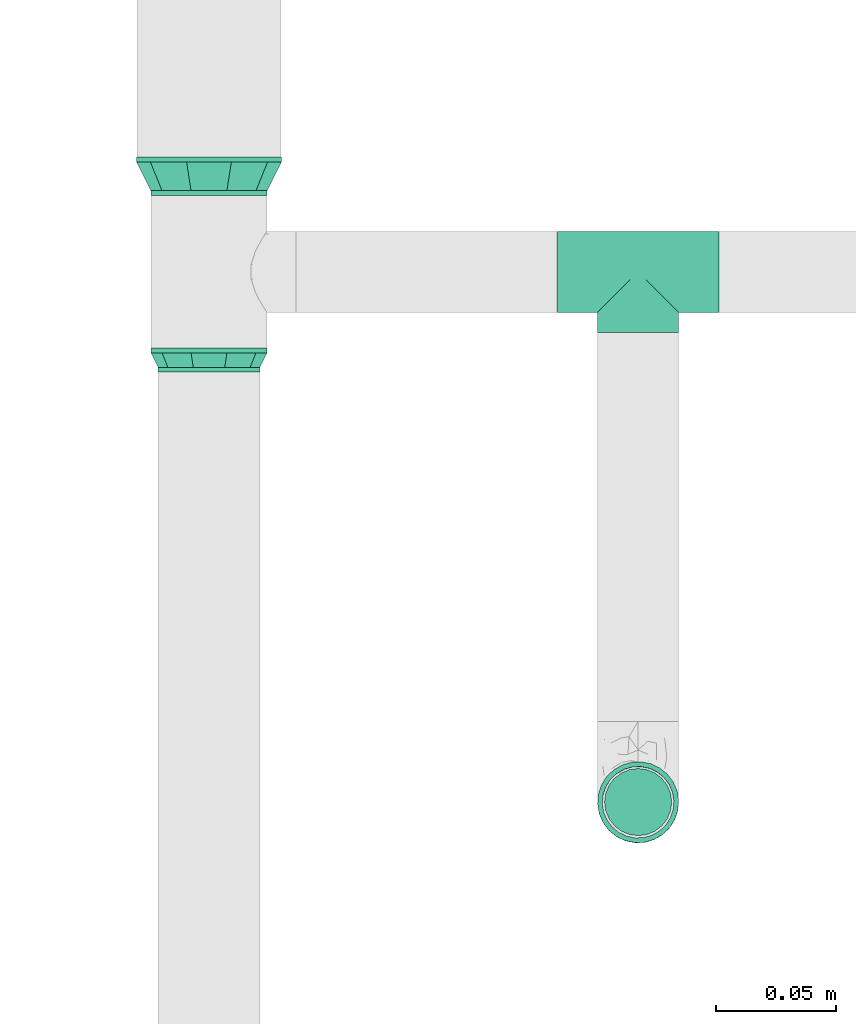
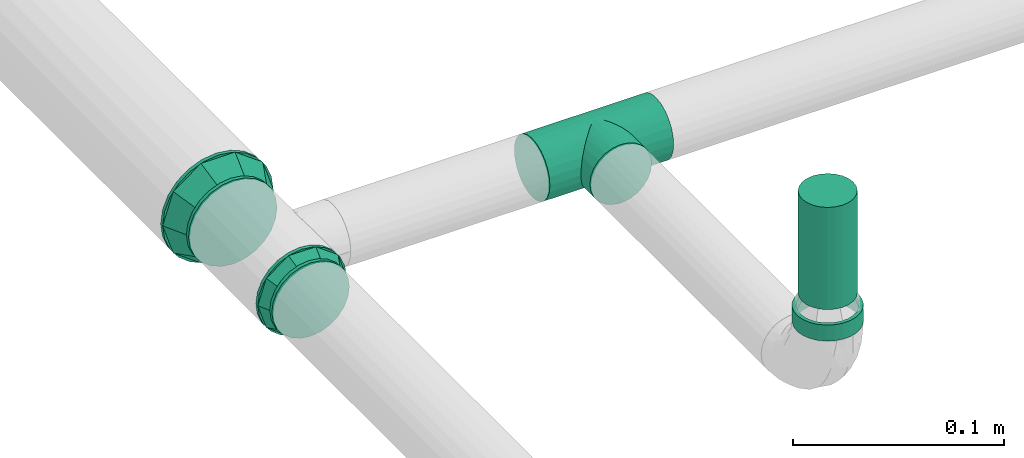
# One storey, part 20 of 43: 3 flow fittings, 1 flow segment, 1 flow terminal.
"""IFC2X3 building model written with IfcOpenShell, lengths in millimetres."""

from ifc_helpers import new_model, entity, si_unit, converted_unit, derived_unit, direction, frame, origin_with_axes, origin_2d_with_axis, place, context, subcontext, project, spatial, hollow_circle, extrude, open_shell, surface_model, source, transform, mapped, type_object, element, save


model = new_model("IFC2X3")

# Units and contexts
model_context = context("Model", 3, precision=0.01, world=frame((0.0, 4.29681676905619e-09, 0.0)), true_north=direction((4.01073788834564e-13, 1.0)))
plan_context = context("Plan", 3, precision=0.01, world=frame((0.0, 4.29681676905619e-09, 0.0)), true_north=direction((4.01073788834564e-13, 1.0)))
body_context = subcontext(model_context, "Body", "Model", "MODEL_VIEW")
ifc_project = project(units=[converted_unit("PLANEANGLEUNIT", "DEGREE", entity("IfcPositiveLengthMeasure", 0.0174532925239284), si_unit("PLANEANGLEUNIT", "RADIAN"), dimensions=[0, 0, 0, 0, 0, 0, 0]), si_unit("AREAUNIT", "SQUARE_METRE"), si_unit("LENGTHUNIT", "METRE", prefix="MILLI"), si_unit("MASSUNIT", "GRAM", prefix="KILO"), si_unit("POWERUNIT", "WATT"), si_unit("PRESSUREUNIT", "PASCAL"), si_unit("FORCEUNIT", "NEWTON", prefix="KILO"), si_unit("ELECTRICVOLTAGEUNIT", "VOLT"), si_unit("ELECTRICCURRENTUNIT", "AMPERE"), si_unit("THERMODYNAMICTEMPERATUREUNIT", "DEGREE_CELSIUS"), si_unit("TIMEUNIT", "SECOND"), si_unit("VOLUMEUNIT", "CUBIC_METRE"), derived_unit("LINEARVELOCITYUNIT", [(si_unit("LENGTHUNIT", "METRE"), 1), (si_unit("TIMEUNIT", "SECOND"), -1)]), derived_unit("VOLUMETRICFLOWRATEUNIT", [(si_unit("VOLUMEUNIT", "CUBIC_METRE"), 1), (si_unit("TIMEUNIT", "SECOND"), -1)]), derived_unit("THERMALTRANSMITTANCEUNIT", [(si_unit("POWERUNIT", "WATT"), 1), (si_unit("THERMODYNAMICTEMPERATUREUNIT", "KELVIN"), -1), (si_unit("AREAUNIT", "SQUARE_METRE"), -1)]), derived_unit("SOUNDPRESSUREUNIT", [(si_unit("PRESSUREUNIT", "PASCAL"), 1)])], contexts=[model_context, plan_context])

# Site, building, storey
site_placement = place(None, frame((0.0, -4.29681676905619e-09, 0.0), z_axis=(0.0, 0.0, 1.0), x_axis=(1.0, 0.0, 0.0)))
site = spatial("IfcSite", under=ifc_project, at=site_placement, CompositionType="ELEMENT")
building_placement = place(site_placement, frame((0.0, 4.29681676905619e-09, 0.0), z_axis=(0.0, 0.0, 1.0), x_axis=(1.0, 0.0, 0.0)))
building = spatial("IfcBuilding", under=site, at=building_placement, Name="mc-building", CompositionType="ELEMENT")
storey_placement = place(building_placement, frame((0.0, 0.0, 210900.0), z_axis=(0.0, 0.0, 1.0), x_axis=(1.0, 0.0, 0.0)))
storey = spatial("IfcBuildingStorey", under=building, at=storey_placement, Name="Nivå F", CompositionType="ELEMENT", Elevation=210900.0)

# Flow fittings
pipe_fitting_type_1 = type_object("IfcPipeFittingType", Name="magi_pipe_fe_tee_centric_90_NOR", PredefinedType="JUNCTION")
shared_shape_1 = source(origin_with_axes(), body_context, "Body", "SurfaceModel", [
    surface_model("IfcShellBasedSurfaceModel", [(-33.8, 8.45, -14.63583), (-33.8, 4.37404, -16.32415), (-33.8, 11.9501, -11.9501), (-33.8, -11.9501, -11.9501), (-33.8, -14.63583, -8.45), (-33.8, -8.45, -14.63583), (-33.8, 0.0, -16.9), (-33.8, -4.37404, -16.32415), (-33.8, -4.37404, 16.32415), (-33.8, 0.0, 16.9), (-33.8, -8.45, 14.63583), (-33.8, 16.32415, -4.37404), (-33.8, 14.63583, -8.45), (-33.8, -16.9, 0.0), (-33.8, -16.32415, -4.37404), (-33.8, 14.63583, 8.45), (-33.8, 16.32415, 4.37404), (-33.8, 8.45, 14.63583), (-33.8, 11.9501, 11.9501), (-33.8, 4.37404, 16.32415), (-33.8, -11.9501, 11.9501), (-33.8, -14.63583, 8.45), (-33.8, -16.32415, 4.37404), (-33.8, 16.9, 0.0), (33.8, 4.37404, -16.32415), (33.8, -16.9, 0.0), (33.8, 0.0, -16.9), (33.8, 14.63583, -8.45), (33.8, 8.45, -14.63583), (33.8, 16.32415, -4.37404), (33.8, 11.9501, -11.9501), (33.8, -16.32415, 4.37404), (33.8, -8.45, -14.63583), (33.8, -4.37404, -16.32415), (33.8, -11.9501, -11.9501), (33.8, -14.63583, -8.45), (33.8, -16.32415, -4.37404), (33.8, 16.32415, 4.37404), (33.8, 8.45, 14.63583), (33.8, 14.63583, 8.45), (33.8, 11.9501, 11.9501), (33.8, -8.45, 14.63583), (33.8, 4.37404, 16.32415), (33.8, -14.63583, 8.45), (33.8, -11.9501, 11.9501), (33.8, 0.0, 16.9), (33.8, -4.37404, 16.32415), (33.8, 16.9, 0.0), (16.28698, -16.28698, 4.51047), (16.9, -16.9, 0.0), (14.62704, -14.62704, 8.4652), (9.47213, -9.47213, 13.99602), (12.26343, -12.26343, 11.62834), (-16.9, -16.9, 0.0), (-16.28698, -16.28698, 4.51047), (-14.62704, -14.62704, 8.4652), (-12.26343, -12.26343, 11.62834), (-9.47213, -9.47213, 13.99602), (-6.42894, -6.42894, 15.62942), (6.42894, -6.42894, 15.62942), (3.24522, -3.24522, 16.58549), (0.0, 0.0, 16.9), (-3.24522, -3.24522, 16.58549), (3.24522, -3.24522, -16.58549), (0.0, 0.0, -16.9), (-3.24522, -3.24522, -16.58549), (-6.42894, -6.42894, -15.62942), (6.42894, -6.42894, -15.62942), (9.47213, -9.47213, -13.99602), (12.26343, -12.26343, -11.62834), (14.62704, -14.62704, -8.4652), (16.28698, -16.28698, -4.51047), (-9.47213, -9.47213, -13.99602), (-12.26343, -12.26343, -11.62834), (-16.28698, -16.28698, -4.51047), (-14.62704, -14.62704, -8.4652), (4.37404, -25.35, -16.32415), (-16.9, -25.35, 0.0), (0.0, -25.35, -16.9), (14.63583, -25.35, -8.45), (8.45, -25.35, -14.63583), (16.32415, -25.35, -4.37404), (11.9501, -25.35, -11.9501), (-11.9501, -25.35, -11.9501), (-8.45, -25.35, -14.63583), (-4.37404, -25.35, -16.32415), (-14.63583, -25.35, -8.45), (-16.32415, -25.35, -4.37404), (16.9, -25.35, 0.0), (8.45, -25.35, 14.63583), (16.32415, -25.35, 4.37404), (14.63583, -25.35, 8.45), (-8.45, -25.35, 14.63583), (11.9501, -25.35, 11.9501), (4.37404, -25.35, 16.32415), (-16.32415, -25.35, 4.37404), (-11.9501, -25.35, 11.9501), (-14.63583, -25.35, 8.45), (0.0, -25.35, 16.9), (-4.37404, -25.35, 16.32415)], [open_shell([[[0, 1, 2]], [[3, 4, 5]], [[6, 7, 5]], [[8, 9, 10]], [[1, 6, 11]], [[1, 11, 12]], [[2, 1, 12]], [[13, 11, 6]], [[14, 13, 4]], [[6, 5, 4]], [[6, 4, 13]], [[13, 15, 11]], [[15, 16, 11]], [[10, 15, 13]], [[15, 10, 17]], [[18, 15, 17]], [[19, 17, 9]], [[20, 10, 21]], [[22, 21, 10]], [[10, 13, 22]], [[10, 9, 17]], [[23, 11, 16]], [[24, 25, 26]], [[27, 24, 28]], [[27, 29, 24]], [[27, 28, 30]], [[31, 25, 24]], [[26, 32, 33]], [[26, 34, 32]], [[35, 25, 36]], [[35, 34, 26]], [[25, 35, 26]], [[24, 29, 31]], [[29, 37, 38]], [[38, 37, 39]], [[38, 31, 29]], [[38, 39, 40]], [[41, 38, 42]], [[43, 41, 44]], [[41, 43, 31]], [[41, 45, 46]], [[41, 31, 38]], [[42, 45, 41]], [[29, 47, 37]], [[31, 43, 48]], [[25, 31, 49]], [[49, 31, 48]], [[43, 50, 48]], [[44, 41, 51]], [[50, 43, 52]], [[51, 52, 44]], [[52, 43, 44]], [[53, 54, 22]], [[53, 22, 13]], [[22, 54, 21]], [[54, 55, 21]], [[56, 57, 20]], [[20, 21, 56]], [[20, 57, 10]], [[56, 21, 55]], [[10, 57, 58]], [[51, 41, 59]], [[60, 45, 61]], [[59, 46, 60]], [[46, 59, 41]], [[60, 46, 45]], [[61, 45, 42]], [[39, 37, 16]], [[18, 38, 40]], [[15, 40, 39]], [[42, 38, 17]], [[23, 37, 47]], [[62, 61, 9]], [[62, 8, 58]], [[8, 62, 9]], [[58, 8, 10]], [[61, 19, 9]], [[42, 19, 61]], [[17, 19, 42]], [[17, 38, 18]], [[15, 18, 40]], [[16, 15, 39]], [[37, 23, 16]], [[12, 27, 30]], [[23, 47, 29]], [[30, 28, 0]], [[27, 11, 29]], [[26, 33, 63]], [[26, 64, 24]], [[64, 26, 63]], [[28, 24, 1]], [[64, 1, 24]], [[2, 30, 0]], [[11, 27, 12]], [[12, 30, 2]], [[11, 23, 29]], [[65, 66, 7]], [[6, 1, 64]], [[6, 65, 7]], [[66, 5, 7]], [[1, 0, 28]], [[6, 64, 65]], [[63, 33, 67]], [[32, 34, 68]], [[69, 68, 34]], [[35, 70, 69]], [[69, 34, 35]], [[32, 68, 67]], [[36, 25, 49]], [[36, 71, 35]], [[71, 36, 49]], [[35, 71, 70]], [[72, 5, 66]], [[72, 3, 5]], [[3, 72, 73]], [[3, 73, 4]], [[74, 53, 14]], [[75, 74, 4]], [[74, 14, 4]], [[14, 53, 13]], [[75, 4, 73]], [[32, 67, 33]], [[76, 77, 78]], [[79, 76, 80]], [[79, 81, 76]], [[79, 80, 82]], [[77, 76, 81]], [[78, 83, 84]], [[84, 85, 78]], [[86, 77, 87]], [[83, 78, 86]], [[77, 86, 78]], [[81, 88, 77]], [[89, 88, 90]], [[89, 90, 91]], [[92, 77, 89]], [[89, 91, 93]], [[92, 89, 94]], [[95, 96, 97]], [[96, 95, 92]], [[92, 98, 99]], [[95, 77, 92]], [[94, 98, 92]], [[89, 77, 88]], [[77, 95, 53]], [[54, 53, 95]], [[97, 96, 56]], [[96, 92, 57]], [[95, 97, 54]], [[58, 92, 99]], [[55, 54, 97]], [[56, 55, 97]], [[58, 57, 92]], [[98, 61, 62]], [[58, 99, 62]], [[56, 96, 57]], [[62, 99, 98]], [[94, 60, 98]], [[89, 59, 94]], [[91, 90, 48]], [[52, 93, 91]], [[93, 51, 89]], [[49, 90, 88]], [[59, 60, 94]], [[51, 59, 89]], [[49, 48, 90]], [[50, 52, 91]], [[48, 50, 91]], [[51, 93, 52]], [[98, 60, 61]], [[88, 81, 49]], [[71, 49, 81]], [[79, 82, 69]], [[82, 80, 68]], [[81, 79, 71]], [[67, 80, 76]], [[70, 71, 79]], [[69, 70, 79]], [[67, 68, 80]], [[78, 64, 63]], [[67, 76, 63]], [[69, 82, 68]], [[63, 76, 78]], [[85, 65, 78]], [[84, 66, 85]], [[86, 87, 74]], [[86, 73, 83]], [[72, 84, 83]], [[53, 87, 77]], [[66, 65, 85]], [[72, 66, 84]], [[53, 74, 87]], [[75, 73, 86]], [[74, 75, 86]], [[72, 83, 73]], [[78, 65, 64]]])]),
])
flow_fitting_1_placement = place(storey_placement, frame((608058.43429, 692259.33183, 2660.0), z_axis=(0.0, 0.0, 1.0), x_axis=(1.0, 0.0, 0.0)))
element("IfcFlowFitting", 1, at=flow_fitting_1_placement, inside=storey, type_object=pipe_fitting_type_1, Name="magi_pipe_fe_tee_centric_90_NOR", context=body_context, shape_type="MappedRepresentation", body=[
    mapped(shared_shape_1, transform((0.0, 0.0, 0.0), scale=1.0)),
])
pipe_fitting_type_2 = type_object("IfcPipeFittingType", Name="magi_pipe_fe_reducer_centric_short_NOR", PredefinedType="TRANSITION")
shared_shape_2 = source(origin_with_axes(), body_context, "Body", "SurfaceModel", [
    surface_model("IfcShellBasedSurfaceModel", [(-2.0, 0.0, 21.2), (-2.0, 5.48696, 20.47763), (-2.0, 10.6, 18.35974), (-2.0, 14.99066, 14.99066), (-2.0, 18.35974, 10.6), (-2.0, 20.47763, 5.48696), (-2.0, -21.2, 0.0), (-2.0, -14.99066, -14.99066), (-2.0, -5.48696, 20.47763), (-2.0, -14.99066, 14.99066), (-2.0, -10.6, 18.35974), (-2.0, -18.35974, 10.6), (-2.0, -20.47763, 5.48696), (-2.0, 20.47763, -5.48696), (-2.0, 10.6, -18.35974), (-2.0, 14.99066, -14.99066), (-2.0, 18.35974, -10.6), (-2.0, 5.48696, -20.47763), (-2.0, 0.0, -21.2), (-2.0, -18.35974, -10.6), (-2.0, -20.47763, -5.48696), (-2.0, -10.6, -18.35974), (-2.0, -5.48696, -20.47763), (-2.0, 21.2, 0.0), (0.0, 10.6, -18.35974), (0.0, 0.0, -21.2), (0.0, 5.48696, -20.47763), (0.0, 20.47763, -5.48696), (0.0, 14.99066, -14.99066), (0.0, -21.2, 0.0), (0.0, -14.99066, -14.99066), (0.0, 18.35974, -10.6), (0.0, -10.6, -18.35974), (0.0, -5.48696, -20.47763), (0.0, -18.35974, -10.6), (0.0, -20.47763, -5.48696), (0.0, -18.35974, 10.6), (0.0, 21.2, 0.0), (0.0, 20.47763, 5.48696), (0.0, 18.35974, 10.6), (0.0, 14.99066, 14.99066), (0.0, 0.0, 21.2), (0.0, 10.6, 18.35974), (0.0, 5.48696, 20.47763), (0.0, -14.99066, 14.99066), (0.0, -20.47763, 5.48696), (0.0, -5.48696, 20.47763), (0.0, -10.6, 18.35974), (8.0, 24.2, 0.0), (8.0, 6.26342, -23.37541), (8.0, 12.1, -20.95781), (8.0, 23.37541, -6.26342), (8.0, 17.11198, -17.11198), (8.0, 20.95781, -12.1), (8.0, -24.2, 0.0), (8.0, -12.1, -20.95781), (8.0, -6.26342, -23.37541), (8.0, 0.0, -24.2), (8.0, -17.11198, -17.11198), (8.0, -23.37541, -6.26342), (8.0, -20.95781, -12.1), (8.0, 20.95781, 12.1), (8.0, 17.11198, 17.11198), (8.0, 12.1, 20.95781), (8.0, 6.26342, 23.37541), (8.0, 0.0, 24.2), (8.0, -23.37541, 6.26342), (8.0, -17.11198, 17.11198), (8.0, -20.95781, 12.1), (8.0, -6.26342, 23.37541), (8.0, -12.1, 20.95781), (8.0, 23.37541, 6.26342), (6.0, 0.0, 24.2), (6.0, 6.26342, 23.37541), (6.0, 12.1, 20.95781), (6.0, 17.11198, 17.11198), (6.0, 6.26342, -23.37541), (6.0, 20.95781, 12.1), (6.0, -23.37541, 6.26342), (6.0, -17.11198, -17.11198), (6.0, -6.26342, 23.37541), (6.0, -17.11198, 17.11198), (6.0, -12.1, 20.95781), (6.0, -20.95781, 12.1), (6.0, -24.2, 0.0), (6.0, 23.37541, 6.26342), (6.0, 24.2, 0.0), (6.0, 23.37541, -6.26342), (6.0, 17.11198, -17.11198), (6.0, 20.95781, -12.1), (6.0, 12.1, -20.95781), (6.0, -23.37541, -6.26342), (6.0, -20.95781, -12.1), (6.0, -6.26342, -23.37541), (6.0, -12.1, -20.95781), (6.0, 0.0, -24.2), (6.0, 7.47821, 23.01557), (6.0, -7.47821, 23.01557), (6.0, 19.57821, 14.2244), (6.0, 19.57821, -14.2244), (6.0, -19.57821, 14.2244), (6.0, -19.57821, -14.2244), (6.0, 7.47821, -23.01557), (6.0, -7.47821, -23.01557), (0.0, -6.55116, 20.1624), (0.0, 6.55116, 20.1624), (0.0, -17.15116, 12.46105), (0.0, -17.15116, -12.46105), (0.0, 17.15116, 12.46105), (0.0, 17.15116, -12.46105), (0.0, -6.55116, -20.1624), (0.0, 6.55116, -20.1624), (6.0, -21.8891, -7.1122), (0.0, -19.17558, -6.23052), (0.0, -11.85116, -16.31172), (6.0, -13.52821, -18.61999), (6.0, 0.0, -23.01557), (0.0, 0.0, -20.1624), (0.0, 18.43768, -8.50153), (0.0, 19.72421, -4.54202), (6.0, 21.8891, -7.1122), (6.0, 13.52821, -18.61999), (0.0, 11.85116, -16.31172), (6.0, 21.8891, 7.1122), (0.0, 19.17558, 6.23052), (0.0, 11.85116, 16.31172), (6.0, 13.52821, 18.61999), (6.0, 0.0, 23.01557), (0.0, 0.0, 20.1624), (0.0, -18.43768, 8.50153), (0.0, -19.72421, 4.54202), (6.0, -21.8891, 7.1122), (6.0, -13.52821, 18.61999), (0.0, -11.85116, 16.31172)], [open_shell([[[0, 1, 2]], [[0, 2, 3]], [[3, 4, 5]], [[3, 5, 0]], [[6, 0, 7]], [[8, 9, 10]], [[8, 0, 9]], [[11, 6, 12]], [[9, 0, 11]], [[0, 6, 11]], [[0, 5, 7]], [[5, 13, 14]], [[15, 13, 16]], [[7, 5, 14]], [[14, 13, 15]], [[17, 18, 14]], [[6, 19, 20]], [[7, 19, 6]], [[21, 18, 22]], [[21, 7, 14]], [[18, 21, 14]], [[13, 5, 23]], [[24, 25, 26]], [[27, 24, 28]], [[29, 30, 24]], [[27, 28, 31]], [[27, 29, 24]], [[25, 32, 33]], [[25, 24, 32]], [[34, 29, 35]], [[32, 24, 30]], [[34, 30, 29]], [[36, 27, 37]], [[38, 39, 40]], [[38, 40, 41]], [[42, 43, 41]], [[42, 41, 40]], [[38, 41, 44]], [[29, 36, 45]], [[27, 36, 29]], [[44, 46, 47]], [[36, 38, 44]], [[41, 46, 44]], [[36, 37, 38]], [[20, 35, 6]], [[19, 34, 20]], [[32, 7, 21]], [[19, 7, 30]], [[33, 21, 22]], [[20, 34, 35]], [[35, 29, 6]], [[33, 32, 21]], [[30, 7, 32]], [[30, 34, 19]], [[25, 33, 22]], [[22, 18, 25]], [[17, 26, 18]], [[14, 24, 17]], [[31, 15, 16]], [[14, 15, 28]], [[27, 16, 13]], [[14, 28, 24]], [[24, 26, 17]], [[37, 27, 13]], [[31, 16, 27]], [[31, 28, 15]], [[23, 37, 13]], [[18, 26, 25]], [[5, 38, 23]], [[4, 39, 5]], [[42, 3, 2]], [[4, 3, 40]], [[43, 2, 1]], [[5, 39, 38]], [[38, 37, 23]], [[43, 42, 2]], [[40, 3, 42]], [[40, 39, 4]], [[41, 43, 1]], [[1, 0, 41]], [[8, 46, 0]], [[10, 47, 8]], [[36, 9, 11]], [[10, 9, 44]], [[45, 11, 12]], [[10, 44, 47]], [[47, 46, 8]], [[29, 45, 12]], [[36, 11, 45]], [[36, 44, 9]], [[6, 29, 12]], [[0, 46, 41]], [[48, 49, 50]], [[51, 50, 52]], [[51, 48, 50]], [[51, 52, 53]], [[49, 54, 55]], [[49, 56, 57]], [[49, 55, 56]], [[58, 59, 60]], [[58, 55, 54]], [[58, 54, 59]], [[49, 48, 61]], [[61, 62, 49]], [[49, 62, 54]], [[63, 64, 65]], [[63, 65, 62]], [[54, 62, 65]], [[66, 67, 68]], [[69, 66, 54]], [[67, 69, 70]], [[69, 67, 66]], [[54, 65, 69]], [[48, 71, 61]], [[72, 73, 74]], [[72, 74, 75]], [[76, 75, 77]], [[78, 72, 79]], [[72, 75, 79]], [[80, 81, 82]], [[80, 72, 81]], [[81, 78, 83]], [[72, 78, 81]], [[78, 79, 84]], [[76, 77, 85]], [[76, 86, 87]], [[88, 87, 89]], [[90, 76, 87]], [[90, 87, 88]], [[76, 79, 75]], [[91, 79, 92]], [[84, 79, 91]], [[76, 93, 94]], [[94, 79, 76]], [[93, 76, 95]], [[85, 86, 76]], [[91, 59, 84]], [[92, 60, 91]], [[55, 79, 94]], [[92, 79, 58]], [[56, 94, 93]], [[91, 60, 59]], [[59, 54, 84]], [[56, 55, 94]], [[58, 79, 55]], [[58, 60, 92]], [[57, 56, 93]], [[93, 95, 57]], [[76, 49, 95]], [[90, 50, 76]], [[53, 88, 89]], [[90, 88, 52]], [[51, 89, 87]], [[90, 52, 50]], [[50, 49, 76]], [[48, 51, 87]], [[53, 89, 51]], [[53, 52, 88]], [[86, 48, 87]], [[95, 49, 57]], [[85, 71, 86]], [[77, 61, 85]], [[63, 75, 74]], [[77, 75, 62]], [[64, 74, 73]], [[85, 61, 71]], [[71, 48, 86]], [[64, 63, 74]], [[62, 75, 63]], [[62, 61, 77]], [[65, 64, 73]], [[73, 72, 65]], [[80, 69, 72]], [[82, 70, 80]], [[68, 81, 83]], [[82, 81, 67]], [[66, 83, 78]], [[82, 67, 70]], [[70, 69, 80]], [[54, 66, 78]], [[68, 83, 66]], [[68, 67, 81]], [[84, 54, 78]], [[72, 69, 65]], [[96, 97, 84]], [[98, 99, 86]], [[96, 99, 98]], [[84, 97, 100]], [[84, 101, 99]], [[101, 102, 99]], [[102, 101, 103]], [[84, 99, 96]], [[104, 105, 37]], [[106, 107, 29]], [[104, 107, 106]], [[37, 105, 108]], [[37, 109, 107]], [[109, 110, 107]], [[110, 109, 111]], [[37, 107, 104]], [[112, 29, 113]], [[113, 107, 101]], [[103, 114, 110]], [[29, 112, 84]], [[113, 101, 112]], [[115, 107, 114]], [[116, 103, 110]], [[117, 102, 116]], [[102, 117, 111]], [[118, 119, 120]], [[107, 115, 101]], [[103, 115, 114]], [[111, 121, 102]], [[122, 99, 121]], [[119, 86, 120]], [[121, 111, 122]], [[119, 37, 86]], [[122, 109, 99]], [[116, 110, 117]], [[118, 99, 109]], [[99, 118, 120]], [[123, 37, 124]], [[124, 108, 98]], [[96, 125, 105]], [[37, 123, 86]], [[124, 98, 123]], [[126, 108, 125]], [[127, 96, 105]], [[128, 97, 127]], [[97, 128, 104]], [[129, 130, 131]], [[108, 126, 98]], [[96, 126, 125]], [[104, 132, 97]], [[133, 100, 132]], [[130, 84, 131]], [[132, 104, 133]], [[130, 29, 84]], [[133, 106, 100]], [[127, 105, 128]], [[129, 100, 106]], [[100, 129, 131]]])]),
])
flow_fitting_2_placement = place(storey_placement, frame((607879.57252, 692219.53183, 2660.0), z_axis=(0.0, 0.0, 1.0), x_axis=(0.0, 1.0, 0.0)))
element("IfcFlowFitting", 2, at=flow_fitting_2_placement, inside=storey, type_object=pipe_fitting_type_2, Name="magi_pipe_fe_reducer_centric_short_NOR", context=body_context, shape_type="MappedRepresentation", body=[
    mapped(shared_shape_2, transform((0.0, 0.0, 0.0), scale=1.0)),
])
shared_shape_3 = source(origin_with_axes(), body_context, "Body", "SurfaceModel", [
    surface_model("IfcShellBasedSurfaceModel", [(-2.0, 0.0, 24.2), (-2.0, 6.26342, 23.37541), (-2.0, 12.1, 20.95781), (-2.0, 17.11198, 17.11198), (-2.0, 24.2, 0.0), (-2.0, 20.95781, 12.1), (-2.0, -23.37541, 6.26342), (-2.0, -17.11198, -17.11198), (-2.0, -6.26342, 23.37541), (-2.0, -17.11198, 17.11198), (-2.0, -12.1, 20.95781), (-2.0, -20.95781, 12.1), (-2.0, -24.2, 0.0), (-2.0, 23.37541, 6.26342), (-2.0, 23.37541, -6.26342), (-2.0, 6.26342, -23.37541), (-2.0, 17.11198, -17.11198), (-2.0, 20.95781, -12.1), (-2.0, 12.1, -20.95781), (-2.0, -23.37541, -6.26342), (-2.0, -20.95781, -12.1), (-2.0, -6.26342, -23.37541), (-2.0, -12.1, -20.95781), (-2.0, 0.0, -24.2), (0.0, 24.2, 0.0), (0.0, 6.26342, -23.37541), (0.0, 12.1, -20.95781), (0.0, 23.37541, -6.26342), (0.0, 17.11198, -17.11198), (0.0, 20.95781, -12.1), (0.0, -24.2, 0.0), (0.0, -12.1, -20.95781), (0.0, -6.26342, -23.37541), (0.0, 0.0, -24.2), (0.0, -17.11198, -17.11198), (0.0, -23.37541, -6.26342), (0.0, -20.95781, -12.1), (0.0, 20.95781, 12.1), (0.0, 17.11198, 17.11198), (0.0, 12.1, 20.95781), (0.0, 6.26342, 23.37541), (0.0, 0.0, 24.2), (0.0, -23.37541, 6.26342), (0.0, -17.11198, 17.11198), (0.0, -20.95781, 12.1), (0.0, -6.26342, 23.37541), (0.0, -12.1, 20.95781), (0.0, 23.37541, 6.26342), (14.0, 15.1, -26.15397), (14.0, 15.1, 26.15397), (14.0, 7.81634, -29.17096), (14.0, 30.2, 0.0), (14.0, 21.35462, -21.35462), (14.0, 26.15397, -15.1), (14.0, 29.17096, -7.81634), (14.0, -15.1, -26.15397), (14.0, 0.0, -30.2), (14.0, -7.81634, -29.17096), (14.0, -21.35462, -21.35462), (14.0, -29.17096, -7.81634), (14.0, -26.15397, -15.1), (14.0, -29.17096, 7.81634), (14.0, 21.35462, 21.35462), (14.0, 29.17096, 7.81634), (14.0, 26.15397, 15.1), (14.0, 7.81634, 29.17096), (14.0, 0.0, 30.2), (14.0, -21.35462, 21.35462), (14.0, -7.81634, 29.17096), (14.0, -26.15397, 15.1), (14.0, -30.2, 0.0), (14.0, -15.1, 26.15397), (12.0, 0.0, 30.2), (12.0, 7.81634, 29.17096), (12.0, 15.1, 26.15397), (12.0, -29.17096, 7.81634), (12.0, 21.35462, 21.35462), (12.0, 26.15397, 15.1), (12.0, 29.17096, 7.81634), (12.0, 29.17096, -7.81634), (12.0, -7.81634, 29.17096), (12.0, -21.35462, 21.35462), (12.0, -15.1, 26.15397), (12.0, -26.15397, 15.1), (12.0, -29.17096, -7.81634), (12.0, -30.2, 0.0), (12.0, 30.2, 0.0), (12.0, 26.15397, -15.1), (12.0, 7.81634, -29.17096), (12.0, 21.35462, -21.35462), (12.0, 15.1, -26.15397), (12.0, -15.1, -26.15397), (12.0, -21.35462, -21.35462), (12.0, -26.15397, -15.1), (12.0, 0.0, -30.2), (12.0, -7.81634, -29.17096), (12.0, 9.33231, 28.72191), (12.0, -9.33231, 28.72191), (12.0, 24.43231, -17.75111), (12.0, 24.43231, 17.75111), (12.0, -24.43231, 17.75111), (12.0, -24.43231, -17.75111), (12.0, -9.33231, -28.72191), (12.0, 9.33231, -28.72191), (0.0, -7.47821, 23.01557), (0.0, 7.47821, 23.01557), (0.0, -19.57821, 14.2244), (0.0, -19.57821, -14.2244), (0.0, 19.57821, 14.2244), (0.0, 19.57821, -14.2244), (0.0, 7.47821, -23.01557), (0.0, -7.47821, -23.01557), (12.0, -27.31616, -8.87556), (0.0, -21.8891, -7.1122), (0.0, -13.52821, -18.61999), (12.0, -16.88231, -23.23651), (12.0, 0.0, -28.72191), (0.0, 0.0, -23.01557), (12.0, 27.31616, -8.87556), (12.0, 16.88231, -23.23651), (0.0, 13.52821, -18.61999), (0.0, 22.02177, -6.7039), (12.0, 27.31616, 8.87556), (0.0, 21.8891, 7.1122), (0.0, 13.52821, 18.61999), (12.0, 16.88231, 23.23651), (12.0, 0.0, 28.72191), (0.0, 0.0, 23.01557), (12.0, -27.31616, 8.87556), (12.0, -16.88231, 23.23651), (0.0, -13.52821, 18.61999), (0.0, -22.02177, 6.7039)], [open_shell([[[0, 1, 2]], [[0, 2, 3]], [[4, 3, 5]], [[6, 0, 7]], [[0, 3, 7]], [[8, 9, 10]], [[8, 0, 9]], [[9, 6, 11]], [[0, 6, 9]], [[6, 7, 12]], [[4, 5, 13]], [[3, 14, 15]], [[16, 14, 17]], [[18, 15, 14]], [[18, 14, 16]], [[15, 7, 3]], [[19, 7, 20]], [[12, 7, 19]], [[15, 21, 22]], [[22, 7, 15]], [[21, 15, 23]], [[14, 3, 4]], [[24, 25, 26]], [[27, 26, 28]], [[27, 24, 26]], [[27, 28, 29]], [[25, 30, 31]], [[25, 32, 33]], [[25, 31, 32]], [[34, 35, 36]], [[34, 31, 30]], [[34, 30, 35]], [[25, 24, 37]], [[37, 38, 25]], [[25, 38, 30]], [[39, 40, 41]], [[39, 41, 38]], [[30, 38, 41]], [[42, 43, 44]], [[45, 42, 30]], [[43, 45, 46]], [[45, 43, 42]], [[30, 41, 45]], [[24, 47, 37]], [[19, 35, 12]], [[20, 36, 19]], [[31, 7, 22]], [[20, 7, 34]], [[32, 22, 21]], [[19, 36, 35]], [[35, 30, 12]], [[32, 31, 22]], [[34, 7, 31]], [[34, 36, 20]], [[33, 32, 21]], [[21, 23, 33]], [[15, 25, 23]], [[18, 26, 15]], [[29, 16, 17]], [[18, 16, 28]], [[27, 17, 14]], [[18, 28, 26]], [[26, 25, 15]], [[24, 27, 14]], [[29, 17, 27]], [[29, 28, 16]], [[4, 24, 14]], [[23, 25, 33]], [[13, 47, 4]], [[5, 37, 13]], [[39, 3, 2]], [[5, 3, 38]], [[40, 2, 1]], [[13, 37, 47]], [[47, 24, 4]], [[40, 39, 2]], [[38, 3, 39]], [[38, 37, 5]], [[41, 40, 1]], [[1, 0, 41]], [[8, 45, 0]], [[10, 46, 8]], [[44, 9, 11]], [[10, 9, 43]], [[42, 11, 6]], [[10, 43, 46]], [[46, 45, 8]], [[30, 42, 6]], [[44, 11, 42]], [[44, 43, 9]], [[12, 30, 6]], [[0, 45, 41]], [[48, 49, 50]], [[51, 48, 52]], [[53, 54, 51]], [[53, 51, 52]], [[55, 50, 49]], [[56, 55, 57]], [[56, 50, 55]], [[58, 59, 60]], [[59, 58, 55]], [[55, 61, 59]], [[51, 62, 48]], [[63, 64, 62]], [[62, 49, 48]], [[49, 65, 66]], [[55, 49, 67]], [[68, 49, 66]], [[61, 67, 69]], [[70, 59, 61]], [[67, 68, 71]], [[61, 55, 67]], [[68, 67, 49]], [[63, 62, 51]], [[72, 73, 74]], [[75, 72, 74]], [[76, 77, 78]], [[74, 76, 75]], [[76, 79, 75]], [[80, 81, 82]], [[80, 72, 81]], [[81, 75, 83]], [[72, 75, 81]], [[75, 84, 85]], [[86, 76, 78]], [[79, 87, 75]], [[87, 88, 75]], [[89, 90, 88]], [[89, 88, 87]], [[88, 91, 75]], [[84, 92, 93]], [[92, 84, 91]], [[91, 94, 95]], [[84, 75, 91]], [[88, 94, 91]], [[79, 76, 86]], [[84, 59, 85]], [[93, 60, 84]], [[55, 92, 91]], [[93, 92, 58]], [[57, 91, 95]], [[84, 60, 59]], [[59, 70, 85]], [[57, 55, 91]], [[58, 92, 55]], [[58, 60, 93]], [[56, 57, 95]], [[95, 94, 56]], [[88, 50, 94]], [[90, 48, 88]], [[53, 89, 87]], [[90, 89, 52]], [[54, 87, 79]], [[90, 52, 48]], [[48, 50, 88]], [[51, 54, 79]], [[53, 87, 54]], [[53, 52, 89]], [[86, 51, 79]], [[94, 50, 56]], [[78, 63, 86]], [[77, 64, 78]], [[49, 76, 74]], [[77, 76, 62]], [[65, 74, 73]], [[78, 64, 63]], [[63, 51, 86]], [[65, 49, 74]], [[62, 76, 49]], [[62, 64, 77]], [[66, 65, 73]], [[73, 72, 66]], [[80, 68, 72]], [[82, 71, 80]], [[69, 81, 83]], [[82, 81, 67]], [[61, 83, 75]], [[82, 67, 71]], [[71, 68, 80]], [[70, 61, 75]], [[69, 83, 61]], [[69, 67, 81]], [[85, 70, 75]], [[72, 68, 66]], [[85, 96, 97]], [[96, 98, 99]], [[86, 99, 98]], [[85, 97, 100]], [[85, 101, 98]], [[98, 102, 103]], [[102, 98, 101]], [[85, 98, 96]], [[104, 105, 24]], [[106, 107, 30]], [[104, 107, 106]], [[24, 105, 108]], [[24, 109, 110]], [[107, 110, 111]], [[110, 107, 24]], [[24, 107, 104]], [[112, 30, 113]], [[113, 107, 101]], [[102, 114, 111]], [[30, 112, 85]], [[113, 101, 112]], [[115, 107, 114]], [[116, 102, 111]], [[117, 103, 116]], [[103, 117, 110]], [[107, 115, 101]], [[102, 115, 114]], [[109, 118, 98]], [[110, 119, 103]], [[120, 98, 119]], [[121, 86, 118]], [[119, 110, 120]], [[121, 24, 86]], [[120, 109, 98]], [[116, 111, 117]], [[118, 109, 121]], [[122, 24, 123]], [[123, 108, 99]], [[96, 124, 105]], [[24, 122, 86]], [[123, 99, 122]], [[125, 108, 124]], [[126, 96, 105]], [[127, 97, 126]], [[97, 127, 104]], [[108, 125, 99]], [[96, 125, 124]], [[106, 128, 100]], [[104, 129, 97]], [[130, 100, 129]], [[131, 85, 128]], [[129, 104, 130]], [[131, 30, 85]], [[130, 106, 100]], [[126, 105, 127]], [[128, 106, 131]]])]),
])
flow_fitting_3_placement = place(storey_placement, frame((607879.57252, 692293.13183, 2660.0), z_axis=(0.0, 0.0, 1.0), x_axis=(0.0, 1.0, 0.0)))
element("IfcFlowFitting", 3, at=flow_fitting_3_placement, inside=storey, type_object=pipe_fitting_type_2, Name="magi_pipe_fe_reducer_centric_short_NOR", context=body_context, shape_type="MappedRepresentation", body=[
    mapped(shared_shape_3, transform((0.0, 0.0, 0.0), scale=1.0)),
])

# Flow segment
pipe_segment_type = type_object("IfcPipeSegmentType", Name="Stålrør normaltykke", PredefinedType="RIGIDSEGMENT")
shared_shape_4 = source(origin_with_axes(), body_context, "Body", "SweptSolid", [
    extrude(hollow_circle(Radius=16.9, WallThickness=2.0, at=origin_2d_with_axis()), frame((0.0, 0.0, 0.0), z_axis=(1.0, 0.0, 0.0), x_axis=(0.0, 1.0, 0.0)), (0.0, 0.0, 1.0), 9.2),
])
flow_segment_placement = place(storey_placement, frame((608058.43429, 692038.17058, 2693.79999999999), z_axis=(0.996886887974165, -0.0788449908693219, 2.98917911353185e-08), x_axis=(0.00071100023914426, 0.00899000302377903, 0.999959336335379)))
element("IfcFlowSegment", 4, at=flow_segment_placement, inside=storey, type_object=pipe_segment_type, Name="Stålrør normaltykke", context=body_context, shape_type="MappedRepresentation", body=[
    mapped(shared_shape_4, transform((0.0, 0.0, 0.0), scale=1.0)),
])

# Flow terminal
fire_suppression_terminal_type = type_object("IfcFireSuppressionTerminalType", Name="SU-20-K115-68DGR-STD", PredefinedType="NOTDEFINED")
shared_shape_5 = source(origin_with_axes(), body_context, "Body", "SurfaceModel", [
    surface_model("IfcShellBasedSurfaceModel", [(3.62347, -13.52296, 59.0), (-3.62347, -13.52296, 59.0), (0.0, -14.0, 59.0), (12.12436, -7.0, 59.0), (7.0, -12.12436, 59.0), (-9.89949, -9.89949, 59.0), (13.52296, 3.62347, 59.0), (9.89949, -9.89949, 59.0), (-7.0, -12.12436, 59.0), (-12.12436, -7.0, 59.0), (-14.0, 0.0, 59.0), (-13.52296, -3.62347, 59.0), (-13.52296, 3.62347, 59.0), (13.52296, -3.62347, 59.0), (14.0, 0.0, 59.0), (9.89949, 9.89949, 59.0), (12.12436, 7.0, 59.0), (7.0, 12.12436, 59.0), (3.62347, 13.52296, 59.0), (-9.89949, 9.89949, 59.0), (-12.12436, 7.0, 59.0), (0.0, 14.0, 59.0), (-3.62347, 13.52296, 59.0), (-7.0, 12.12436, 59.0), (9.89949, 9.89949, 0.0), (0.0, 14.0, 0.0), (3.62347, 13.52296, 0.0), (7.0, 12.12436, 0.0), (12.12436, 7.0, 0.0), (13.52296, 3.62347, 0.0), (-9.89949, -9.89949, 0.0), (-3.62347, 13.52296, 0.0), (-9.89949, 9.89949, 0.0), (-7.0, 12.12436, 0.0), (-13.52296, 3.62347, 0.0), (-12.12436, 7.0, 0.0), (-14.0, 0.0, 0.0), (3.62347, -13.52296, 0.0), (14.0, 0.0, 0.0), (13.52296, -3.62347, 0.0), (12.12436, -7.0, 0.0), (7.0, -12.12436, 0.0), (9.89949, -9.89949, 0.0), (-12.12436, -7.0, 0.0), (-13.52296, -3.62347, 0.0), (-3.62347, -13.52296, 0.0), (-7.0, -12.12436, 0.0), (0.0, -14.0, 0.0)], [open_shell([[[0, 1, 2]], [[3, 0, 4]], [[5, 0, 6]], [[3, 4, 7]], [[6, 0, 3]], [[1, 5, 8]], [[1, 0, 5]], [[9, 10, 11]], [[10, 9, 5]], [[5, 12, 10]], [[3, 13, 14]], [[12, 5, 6]], [[15, 6, 16]], [[15, 17, 18]], [[15, 18, 6]], [[12, 6, 18]], [[12, 19, 20]], [[19, 12, 21]], [[19, 22, 23]], [[22, 19, 21]], [[12, 18, 21]], [[6, 3, 14]], [[24, 25, 26]], [[24, 26, 27]], [[24, 28, 29]], [[24, 29, 25]], [[30, 31, 25]], [[31, 32, 33]], [[32, 31, 34]], [[32, 34, 35]], [[36, 34, 30]], [[30, 34, 31]], [[25, 29, 37]], [[38, 39, 40]], [[37, 29, 40]], [[41, 37, 40]], [[41, 40, 42]], [[25, 37, 30]], [[36, 43, 44]], [[30, 43, 36]], [[30, 45, 46]], [[30, 37, 45]], [[47, 45, 37]], [[40, 29, 38]], [[11, 44, 43]], [[30, 9, 43]], [[8, 46, 45]], [[30, 46, 5]], [[1, 45, 47]], [[44, 10, 36]], [[44, 11, 10]], [[43, 9, 11]], [[30, 5, 9]], [[8, 5, 46]], [[45, 1, 8]], [[47, 2, 1]], [[0, 37, 41]], [[42, 4, 41]], [[3, 40, 39]], [[42, 40, 7]], [[13, 39, 38]], [[37, 0, 2]], [[41, 4, 0]], [[42, 7, 4]], [[40, 3, 7]], [[13, 3, 39]], [[38, 14, 13]], [[37, 2, 47]], [[6, 38, 29]], [[17, 27, 26]], [[27, 15, 24]], [[18, 26, 25]], [[29, 16, 6]], [[6, 14, 38]], [[28, 15, 16]], [[28, 24, 15]], [[15, 27, 17]], [[26, 18, 17]], [[28, 16, 29]], [[25, 21, 18]], [[22, 31, 33]], [[32, 23, 33]], [[20, 35, 34]], [[32, 35, 19]], [[12, 34, 36]], [[31, 22, 21]], [[33, 23, 22]], [[32, 19, 23]], [[35, 20, 19]], [[12, 20, 34]], [[36, 10, 12]], [[31, 21, 25]]])]),
])
flow_terminal_placement = place(storey_placement, frame((608058.4458, 692038.31616, 2709.99249999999), z_axis=(0.0, 0.0, 1.0), x_axis=(1.0, 0.0, 0.0)))
element("IfcFlowTerminal", 5, at=flow_terminal_placement, inside=storey, type_object=fire_suppression_terminal_type, Name="SU-20-K115-68DGR-STD", context=body_context, shape_type="MappedRepresentation", body=[
    mapped(shared_shape_5, transform((0.0, 0.0, 0.0), scale=1.0)),
])

save(model, "model.ifc")
